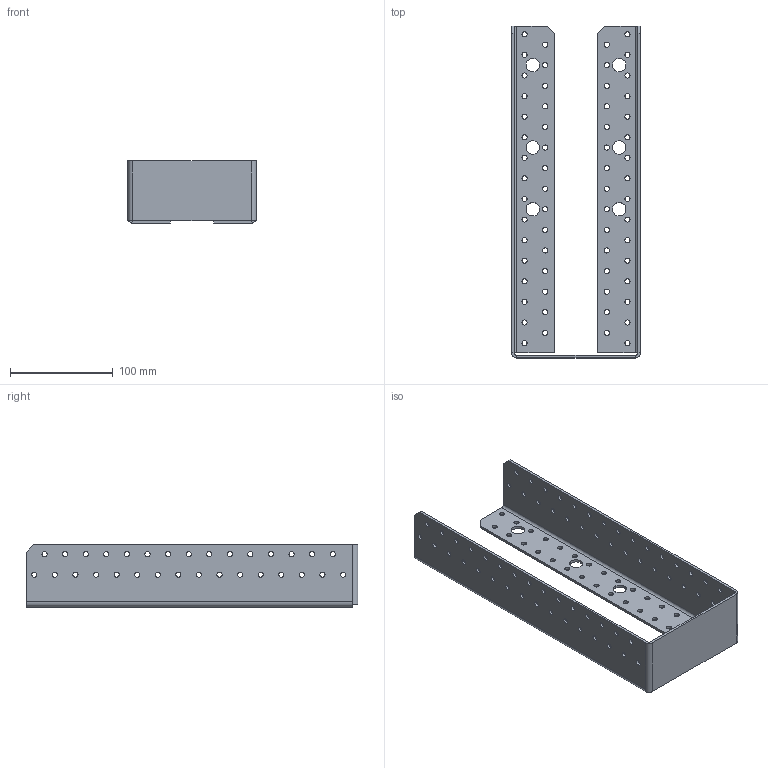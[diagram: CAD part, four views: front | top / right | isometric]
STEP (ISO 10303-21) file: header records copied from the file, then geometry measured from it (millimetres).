
FILE_DESCRIPTION (( 'STEP AP203' ), '1' );
FILE_NAME ('40508IKO.STEP', '2021-04-16T07:59:26', ( '' ), ( '' ), 'SwSTEP 2.0', 'SolidWorks 2013', '' );
FILE_SCHEMA (( 'CONFIG_CONTROL_DESIGN' ));
Length unit declared in the file: millimetre
Products named in the file (1): 40508IKO
Bounding box: 125 x 322.5 x 60.5 mm (x, y, z)
Volume: 165461.6 mm3; surface area: 142310.3 mm2
Topology: 1 solids, 1 shells, 304 faces, 876 edges, 574 vertices
Faces by surface type: cylinder 268, plane 36
Entity records: 10855 total; most frequent: DIRECTION 2024, CARTESIAN_POINT 1755, ORIENTED_EDGE 1752, EDGE_CURVE 876, AXIS2_PLACEMENT_3D 843, VERTEX_POINT 574, EDGE_LOOP 564, CIRCLE 538
